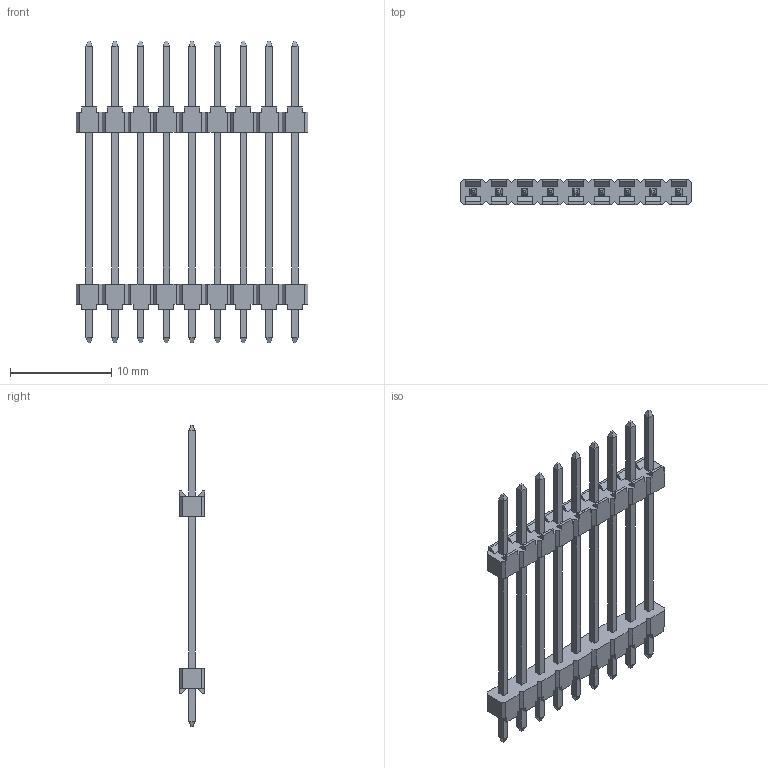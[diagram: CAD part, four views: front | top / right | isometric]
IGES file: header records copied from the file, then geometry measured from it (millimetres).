
Global section: file name: N:\GOLF_VI_2_54mm_UGII\9614XX-X04XX04-XX (TS-2185)\961409-9041304-XX.igs; native system: NX V3.0; preprocessor: UGS NX IGES V4.0; date: 20070618.103430; units: millimetre
Bounding box: 22.86 x 2.5 x 29.8 mm (x, y, z)
Surface area: 1064 mm2 (no closed solid volume)
Topology: 0 solids, 0 shells, 498 faces, 2713 edges, 2713 vertices
Faces by surface type: bspline 498
